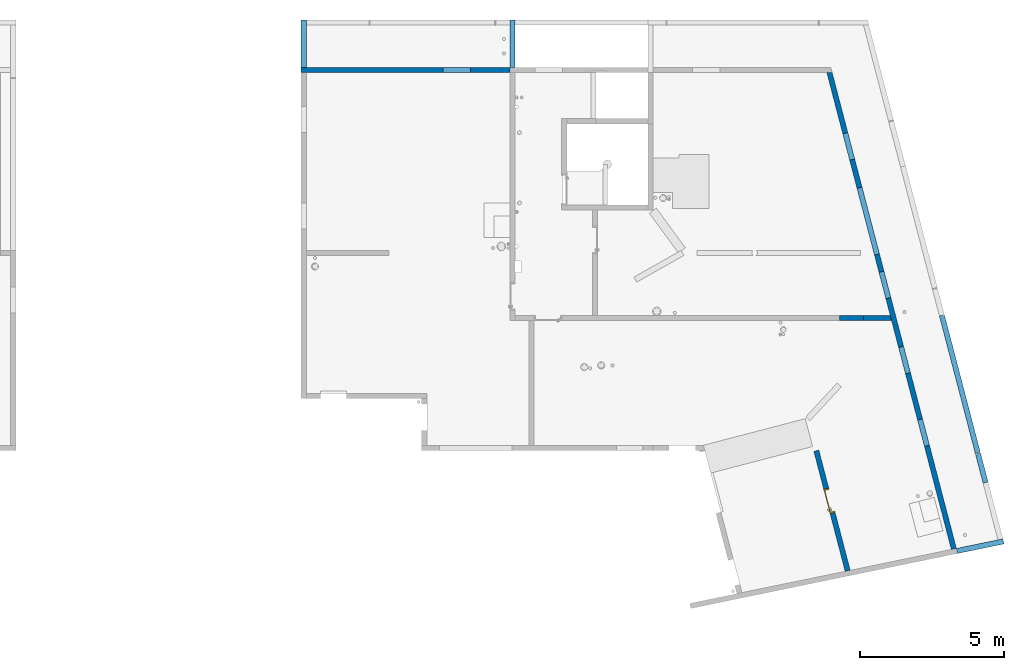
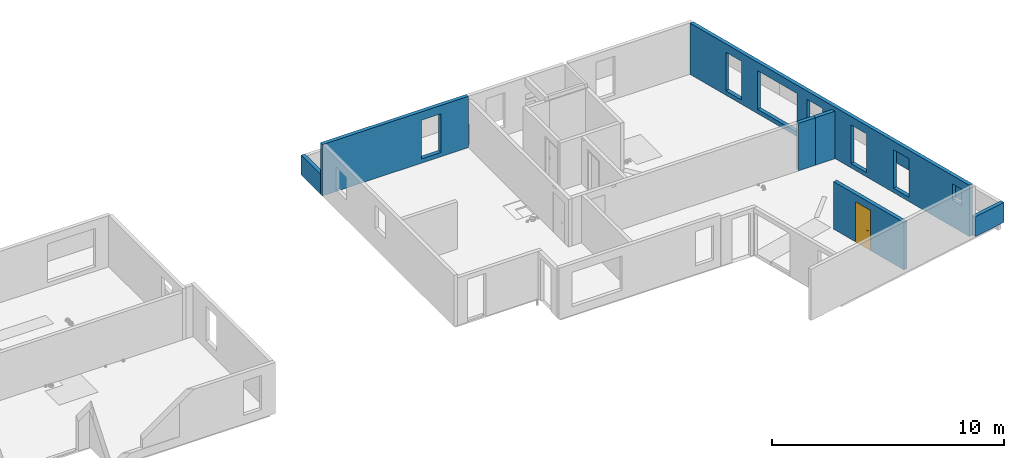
# One storey, part 16 of 28: 9 walls, 1 door, 12 openings.
"""IFC2X3 building model written with IfcOpenShell, lengths in centimetres."""

from ifc_helpers import new_model, entity, si_unit, converted_unit, derived_unit, direction, frame, frame_2d, origin, place, context, subcontext, project, spatial, polyline, rectangle, outline, extrude, clip, bounded_halfspace, faceted_brep, source, transform, mapped, material, material_list, layer, layer_set, layer_usage, type_object, type_shapes, element, fill, save


model = new_model("IFC2X3")

# Units and contexts
model_context = context("Model", 3, precision=0.001, world=origin(), true_north=direction((6.12303176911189e-17, 1.0)))
body_context = subcontext(model_context, "Body", "Model", "MODEL_VIEW")
ifc_project = project(units=[si_unit("LENGTHUNIT", "METRE", prefix="CENTI"), si_unit("AREAUNIT", "SQUARE_METRE"), si_unit("VOLUMEUNIT", "CUBIC_METRE"), converted_unit("PLANEANGLEUNIT", "DEGREE", entity("IfcRatioMeasure", 0.0174532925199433), si_unit("PLANEANGLEUNIT", "RADIAN"), dimensions=[0, 0, 0, 0, 0, 0, 0]), si_unit("MASSUNIT", "GRAM", prefix="KILO"), derived_unit("MASSDENSITYUNIT", [(si_unit("MASSUNIT", "GRAM", prefix="KILO"), 1), (si_unit("LENGTHUNIT", "METRE"), -3)]), si_unit("TIMEUNIT", "SECOND"), si_unit("FREQUENCYUNIT", "HERTZ"), si_unit("THERMODYNAMICTEMPERATUREUNIT", "DEGREE_CELSIUS"), derived_unit("THERMALTRANSMITTANCEUNIT", [(si_unit("MASSUNIT", "GRAM", prefix="KILO"), 1), (si_unit("THERMODYNAMICTEMPERATUREUNIT", "KELVIN"), -1), (si_unit("TIMEUNIT", "SECOND"), -3)]), derived_unit("VOLUMETRICFLOWRATEUNIT", [(si_unit("LENGTHUNIT", "METRE"), 3), (si_unit("TIMEUNIT", "SECOND"), -1)]), si_unit("ELECTRICCURRENTUNIT", "AMPERE"), si_unit("ELECTRICVOLTAGEUNIT", "VOLT"), si_unit("POWERUNIT", "WATT"), si_unit("FORCEUNIT", "NEWTON"), si_unit("ILLUMINANCEUNIT", "LUX"), si_unit("LUMINOUSFLUXUNIT", "LUMEN"), si_unit("LUMINOUSINTENSITYUNIT", "CANDELA"), derived_unit("USERDEFINED", [(si_unit("MASSUNIT", "GRAM", prefix="KILO"), -1), (si_unit("LENGTHUNIT", "METRE"), -2), (si_unit("TIMEUNIT", "SECOND"), 3), (si_unit("LUMINOUSFLUXUNIT", "LUMEN"), 1)]), derived_unit("LINEARVELOCITYUNIT", [(si_unit("LENGTHUNIT", "METRE"), 1), (si_unit("TIMEUNIT", "SECOND"), -1)]), si_unit("PRESSUREUNIT", "PASCAL"), derived_unit("USERDEFINED", [(si_unit("LENGTHUNIT", "METRE"), -2), (si_unit("MASSUNIT", "GRAM", prefix="KILO"), 1), (si_unit("TIMEUNIT", "SECOND"), -2)])], contexts=[model_context])

# Site, building, storey
site_placement = place(None, origin())
site = spatial("IfcSite", under=ifc_project, at=site_placement, Name="Default", CompositionType="ELEMENT")
building_placement = place(site_placement, origin())
building = spatial("IfcBuilding", under=site, at=building_placement, Name="CAGE 03", CompositionType="ELEMENT")
storey_placement = place(building_placement, frame((0.0, 0.0, 1420.0)))
storey = spatial("IfcBuildingStorey", under=building, at=storey_placement, Name="R+5", CompositionType="ELEMENT", Elevation=1420.0)

# Walls
ifc_material_1 = material(Name="Béton, C25/30")
ifc_layer_1 = layer(ifc_material_1, 18.0)
ifc_layer_set_1 = layer_set([ifc_layer_1], Name="Mur de base:Voile BA 18")
ifc_layer_usage_1 = layer_usage(ifc_layer_set_1, "AXIS2", "POSITIVE", -9.0)
wall_type_1 = type_object("IfcWallType", Name="Mur de base:Voile BA 18", PredefinedType="STANDARD", material=ifc_layer_set_1)
wall_1_placement = place(storey_placement, frame((9293.36582014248, 5293.66066607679, 0.0), z_axis=(0.0, 0.0, 1.0), x_axis=(0.0, -1.0, 0.0)))
element("IfcWallStandardCase", 1, at=wall_1_placement, inside=storey, type_object=wall_type_1, material=ifc_layer_usage_1, Name="Mur de base:Voile BA 18", ObjectType="Mur de base:Voile BA 18", context=body_context, shape_type="SweptSolid", body=[
    extrude(rectangle(XDim=164.999999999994, YDim=17.9999999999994, at=frame_2d((82.4999999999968, 4.68070027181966e-13), x_axis=(-1.0, 0.0))), origin(), (0.0, 0.0, 1.0), 105.0),
])
ifc_layer_usage_2 = layer_usage(ifc_layer_set_1, "AXIS2", "POSITIVE", -9.0)
wall_2_placement = place(storey_placement, frame((11664.649381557, 3684.91603351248, 0.0), z_axis=(0.0, 0.0, 1.0), x_axis=(-0.25267968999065, 0.967549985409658, 0.0)))
element("IfcWallStandardCase", 2, at=wall_2_placement, inside=storey, type_object=wall_type_1, material=ifc_layer_usage_2, Name="Mur de base:Voile BA 18", ObjectType="Mur de base:Voile BA 18", context=body_context, shape_type="Clipping", body=[
    clip(extrude(rectangle(XDim=601.255378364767, YDim=17.9999999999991, at=frame_2d((300.627689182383, 8.61533067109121e-14), x_axis=(-1.0, 0.0))), origin(), (0.0, 0.0, 1.0), 105.0), bounded_halfspace(frame((105.499999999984, 9.0, 40.0), z_axis=(0.0, 0.0, 1.0), x_axis=(0.0, -1.0, 0.0)), False, frame((105.499999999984, 9.0, 40.0), z_axis=(0.0, 0.0, 1.0), x_axis=(0.0, -1.0, 0.0)), polyline([(0.0, 0.0), (18.0, 0.0), (18.0, 2.0), (0.0, 2.0), (0.0, 0.0)]))),
])
ifc_layer_usage_3 = layer_usage(ifc_layer_set_1, "AXIS2", "POSITIVE", -9.0)
wall_3_placement = place(storey_placement, frame((11337.5894634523, 4257.66066607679, 0.0), z_axis=(0.0, 0.0, 1.0), x_axis=(-1.0, 0.0, 0.0)))
element("IfcWallStandardCase", 3, at=wall_3_placement, inside=storey, type_object=wall_type_1, material=ifc_layer_usage_3, Name="Mur de base:Voile BA 18", ObjectType="Mur de base:Voile BA 18", context=body_context, shape_type="SweptSolid", body=[
    extrude(outline(polyline([(98.2236433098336, -9.0), (98.2236433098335, 9.0), (0.0, 9.0), (4.70077462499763, -9.0), (98.2236433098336, -9.0)])), origin(), (0.0, 0.0, 1.0), 250.0),
])

# Wall, opening, door
ifc_layer_usage_4 = layer_usage(ifc_layer_set_1, "AXIS2", "POSITIVE", -9.0)
wall_4_placement = place(storey_placement, frame((11076.0350638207, 3795.78277764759, 0.0), z_axis=(0.0, 0.0, 1.0), x_axis=(0.252679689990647, -0.967549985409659, 0.0)))
wall_4 = element("IfcWallStandardCase", 4, at=wall_4_placement, inside=storey, type_object=wall_type_1, material=ifc_layer_usage_4, Name="Mur de base:Voile BA 18", ObjectType="Mur de base:Voile BA 18", context=body_context, shape_type="SweptSolid", body=[
    extrude(outline(polyline([(0.0, -9.0), (431.360399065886, -9.0), (432.300690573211, 9.0), (0.0, 9.0), (0.0, -9.0)])), origin(), (0.0, 0.0, 1.0), 250.0),
])
opening_1_placement = place(wall_4_placement, frame((223.70998167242, 9.0, 0.0)))
opening_1 = element("IfcOpeningElement", 5, at=opening_1_placement, cuts=wall_4, Name="Int. Simple:HB83:1", ObjectType="Opening", context=body_context, shape_type="SweptSolid", body=[
    extrude(rectangle(XDim=210.000000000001, YDim=86.9999999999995, at=frame_2d((105.000000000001, 43.4999999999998), x_axis=(1.0, 0.0))), frame((0.0, 0.0, 0.0), z_axis=(0.0, -1.0, 0.0), x_axis=(0.0, 0.0, 1.0)), (0.0, 0.0, 1.0), 18.0),
])
ifc_material_2 = material(Name="Finition Peinture - Blanc satiné")
ifc_material_3 = material(Name="Bois - Panneau de porte")
ifc_material_4 = material(Name="Bois - Cadre de porte")
ifc_material_list_1 = material_list([ifc_material_2, ifc_material_3, ifc_material_4])
ifc_material_list_2 = material_list([ifc_material_2, ifc_material_3, ifc_material_4])
door_style = type_object("IfcDoorStyle", Name="HB83", ConstructionType="NOTDEFINED", OperationType="SINGLE_SWING_RIGHT", ParameterTakesPrecedence=False, Sizeable=False, material=ifc_material_list_2)
shared_shape = source(origin(), body_context, "Body", "Brep", [
    faceted_brep([(86.5000000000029, -0.500000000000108, 87.0), (86.5000000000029, -0.500000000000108, 108.0), (85.535276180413, -0.500000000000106, 108.399601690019), (84.5000000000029, -0.500000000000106, 108.535898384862), (83.4647238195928, -0.500000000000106, 108.399601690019), (82.500000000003, -0.500000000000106, 108.0), (82.5000000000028, -0.500000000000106, 87.0), (83.4647238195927, -0.500000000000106, 86.6003983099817), (84.5000000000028, -0.500000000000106, 86.464101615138), (85.5352761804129, -0.500000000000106, 86.6003983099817), (86.5000000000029, 0.0, 108.0), (86.5000000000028, 0.0, 87.0), (85.5352761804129, 0.0, 86.6003983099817), (84.5000000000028, 0.0, 86.464101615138), (83.4647238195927, 0.0, 86.6003983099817), (82.5000000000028, 0.0, 87.0), (82.500000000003, 0.0, 108.0), (83.4647238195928, 0.0, 108.399601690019), (84.5000000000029, 0.0, 108.535898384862), (85.535276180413, 0.0, 108.399601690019)], [[[0, 1, 2, 3, 4, 5, 6, 7, 8, 9]], [[10, 11, 12, 13, 14, 15, 16, 17, 18, 19]], [[9, 12, 11, 0]], [[8, 13, 12, 9]], [[7, 14, 13, 8]], [[7, 6, 15, 14]], [[15, 6, 5, 16]], [[4, 17, 16, 5]], [[3, 18, 17, 4]], [[2, 19, 18, 3]], [[2, 1, 10, 19]], [[11, 10, 1, 0]]]),
    faceted_brep([(86.5000000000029, 3.0, 87.0), (86.5000000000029, 3.0, 108.0), (85.535276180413, 3.0, 108.399601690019), (84.500000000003, 3.0, 108.535898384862), (83.4647238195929, 3.0, 108.399601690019), (82.500000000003, 3.0, 108.0), (82.5000000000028, 3.0, 87.0), (83.4647238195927, 3.0, 86.6003983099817), (84.5000000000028, 3.0, 86.464101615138), (85.5352761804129, 3.0, 86.6003983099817), (84.500000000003, 3.49999999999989, 108.535898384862), (85.535276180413, 3.49999999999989, 108.399601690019), (86.5000000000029, 3.49999999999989, 108.0), (86.5000000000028, 3.49999999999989, 87.0), (85.5352761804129, 3.49999999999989, 86.6003983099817), (84.5000000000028, 3.49999999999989, 86.464101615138), (83.4647238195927, 3.49999999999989, 86.6003983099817), (82.5000000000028, 3.49999999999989, 87.0), (82.500000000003, 3.49999999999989, 108.0), (83.4647238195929, 3.49999999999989, 108.399601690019)], [[[0, 1, 2, 3, 4, 5, 6, 7, 8, 9]], [[10, 11, 12, 13, 14, 15, 16, 17, 18, 19]], [[4, 19, 18, 5]], [[3, 10, 19, 4]], [[2, 11, 10, 3]], [[2, 1, 12, 11]], [[13, 12, 1, 0]], [[9, 14, 13, 0]], [[8, 15, 14, 9]], [[7, 16, 15, 8]], [[7, 6, 17, 16]], [[17, 6, 5, 18]]]),
    faceted_brep([(84.297470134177, -0.500000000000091, 100.778044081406), (84.7025298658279, -0.500000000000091, 100.778044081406), (85.1000000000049, -0.500000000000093, 100.699999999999), (85.1000000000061, -0.500000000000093, 99.299999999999), (84.702529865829, -0.500000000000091, 99.2219559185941), (84.297470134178, -0.500000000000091, 99.2219559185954), (83.9000000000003, -0.500000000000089, 99.3000000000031), (83.9000000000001, -0.500000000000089, 100.7), (84.7025298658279, -3.1004575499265, 100.778044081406), (85.1000000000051, -3.26509507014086, 100.7), (84.297470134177, -2.93267631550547, 100.778044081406), (82.9298602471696, -4.30028620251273, 100.778044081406), (83.0976414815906, -4.70534593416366, 100.778044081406), (83.9000000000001, -2.76803879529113, 100.7), (83.9000000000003, -2.76803879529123, 99.3000000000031), (84.297470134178, -2.93267631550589, 99.2219559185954), (84.702529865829, -3.10045754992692, 99.2219559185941), (83.097641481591, -4.70534593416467, 99.2219559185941), (82.92986024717, -4.30028620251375, 99.2219559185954), (85.1000000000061, -3.26509507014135, 99.299999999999), (83.2622790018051, -5.10281606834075, 100.7), (82.7652227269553, -3.90281606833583, 100.7), (82.7652227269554, -3.90281606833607, 99.3000000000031), (83.2622790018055, -5.10281606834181, 99.299999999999), (74.4981359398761, -5.1028160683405, 100.7), (74.4981359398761, -4.7053459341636, 100.778044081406), (74.4981359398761, -4.30028620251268, 100.778044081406), (74.4981359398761, -3.90281606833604, 100.699999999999), (74.4981359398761, -3.90281606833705, 99.3000000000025), (74.4981359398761, -4.30028620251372, 99.2219559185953), (74.4981359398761, -4.70534593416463, 99.2219559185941), (74.4981359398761, -5.10281606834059, 99.2999999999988), (78.7139980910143, -4.50281606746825, 100.78786867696), (79.2692302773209, -5.10281606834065, 100.7), (78.6316793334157, -3.90281606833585, 100.7), (78.6316793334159, -3.90281606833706, 99.3000000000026), (78.7139981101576, -4.50281607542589, 99.2121313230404), (79.2692299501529, -5.10281606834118, 99.2999999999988)], [[[0, 1, 2, 3, 4, 5, 6, 7]], [[2, 1, 8, 9]], [[1, 0, 10, 11, 12, 8]], [[0, 7, 13, 10]], [[14, 13, 7, 6]], [[5, 15, 14, 6]], [[5, 4, 16, 17, 18, 15]], [[3, 19, 16, 4]], [[9, 19, 3, 2]], [[9, 8, 12, 20]], [[10, 13, 21, 11]], [[22, 21, 13, 14]], [[14, 15, 18, 22]], [[16, 19, 23, 17]], [[20, 23, 19, 9]], [[24, 25, 26, 27, 28, 29, 30, 31]], [[32, 25, 33]], [[33, 25, 24]], [[33, 20, 12]], [[11, 34, 32]], [[34, 11, 21]], [[27, 26, 34]], [[32, 26, 25]], [[32, 34, 26]], [[32, 33, 12]], [[11, 32, 12]], [[21, 22, 35, 28, 27, 34]], [[36, 29, 35]], [[30, 36, 37]], [[18, 35, 22]], [[29, 28, 35]], [[30, 37, 31]], [[37, 17, 23]], [[36, 17, 37]], [[36, 18, 17]], [[36, 35, 18]], [[29, 36, 30]], [[23, 20, 33, 24, 31, 37]]]),
    faceted_brep([(84.2974701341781, 3.49999999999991, 99.2219559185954), (84.702529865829, 3.49999999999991, 99.2219559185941), (85.1000000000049, 3.4999999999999, 99.2999999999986), (85.1000000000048, 3.4999999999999, 100.7), (84.7025298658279, 3.49999999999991, 100.778044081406), (84.297470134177, 3.49999999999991, 100.778044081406), (83.9000000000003, 3.49999999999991, 100.7), (83.9000000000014, 3.49999999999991, 99.3000000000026), (83.9000000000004, 5.74852045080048, 100.7), (83.9000000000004, 5.74852045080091, 99.3000000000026), (84.2974701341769, 5.91315797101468, 100.778044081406), (84.7025298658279, 6.08093920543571, 100.778044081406), (83.0838906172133, 7.69957845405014, 100.778044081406), (82.9161093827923, 7.29451872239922, 100.778044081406), (85.1000000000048, 6.24557672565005, 100.7), (85.1000000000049, 6.2455767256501, 99.2999999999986), (84.702529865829, 6.08093920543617, 99.2219559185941), (84.2974701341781, 5.91315797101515, 99.2219559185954), (82.9161093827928, 7.29451872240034, 99.2219559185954), (83.0838906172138, 7.69957845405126, 99.2219559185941), (82.7514718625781, 6.89704858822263, 100.7), (82.7514718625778, 6.89704858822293, 99.3000000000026), (83.2485281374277, 8.09704858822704, 100.7), (83.2485281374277, 8.09704858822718, 99.2999999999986), (74.4954216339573, 7.29451872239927, 100.778044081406), (74.4954216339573, 7.6995784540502, 100.778044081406), (74.4954216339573, 8.0970485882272, 100.7), (74.4954216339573, 8.09704858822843, 99.299999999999), (74.4954216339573, 7.6995784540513, 99.2219559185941), (74.4954216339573, 7.29451872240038, 99.2219559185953), (74.4954216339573, 6.89704858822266, 99.3000000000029), (74.4954216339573, 6.89704858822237, 100.7), (78.6234467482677, 6.89704858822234, 100.7), (78.6234479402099, 6.89704858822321, 99.3000000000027), (78.7057655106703, 7.4970485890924, 100.78786867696), (79.255479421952, 8.09704858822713, 100.7), (79.2554794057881, 8.09704858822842, 99.299999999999), (78.7057654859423, 7.49704858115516, 99.2121313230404)], [[[0, 1, 2, 3, 4, 5, 6, 7]], [[8, 9, 7, 6]], [[5, 10, 8, 6]], [[5, 4, 11, 12, 13, 10]], [[3, 14, 11, 4]], [[14, 3, 2, 15]], [[2, 1, 16, 15]], [[1, 0, 17, 18, 19, 16]], [[0, 7, 9, 17]], [[20, 21, 9, 8]], [[8, 10, 13, 20]], [[14, 22, 12, 11]], [[23, 22, 14, 15]], [[15, 16, 19, 23]], [[17, 9, 21, 18]], [[24, 25, 26, 27, 28, 29, 30, 31]], [[20, 32, 31, 30, 33, 21]], [[34, 24, 32]], [[25, 34, 35]], [[13, 32, 20]], [[24, 31, 32]], [[25, 35, 26]], [[35, 12, 22]], [[34, 12, 35]], [[34, 13, 12]], [[34, 32, 13]], [[24, 34, 25]], [[22, 23, 36, 27, 26, 35]], [[37, 28, 36]], [[36, 28, 27]], [[36, 23, 19]], [[18, 33, 37]], [[33, 18, 21]], [[30, 29, 33]], [[37, 29, 28]], [[37, 33, 29]], [[37, 36, 19]], [[18, 37, 19]]]),
    faceted_brep([(90.5000000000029, 3.0, 206.5), (90.5000000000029, 3.0, 0.0), (10.5000000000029, 3.0, 0.0), (10.5000000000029, 3.0, 206.5), (90.5000000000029, 0.0, 206.5), (10.5000000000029, 0.0, 206.5), (10.5000000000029, 0.0, 0.0), (90.5000000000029, 0.0, 0.0)], [[[0, 1, 2, 3]], [[4, 5, 6, 7]], [[3, 5, 4, 0]], [[2, 6, 5, 3]], [[1, 7, 6, 2]], [[0, 4, 7, 1]]]),
    faceted_brep([(94.0, 0.0, 0.0), (90.5000000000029, 0.0, 0.0), (90.5000000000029, 3.0, 0.0), (89.0, 3.0, 0.0), (89.0, 18.0, 0.0), (94.0, 18.0, 0.0), (94.0, 18.0, 210.0), (94.0, 0.0, 210.0), (89.0, 18.0, 205.0), (12.0, 18.0, 205.0), (12.0, 18.0, 0.0), (7.0, 18.0, 0.0), (7.0, 18.0, 210.0), (89.0, 3.0, 205.0), (90.5000000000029, 3.0, 206.5), (10.5000000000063, 3.0, 206.5), (10.5000000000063, 3.0, 0.0), (12.0, 3.0, 0.0), (12.0, 3.0, 205.0), (90.5000000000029, 0.0, 206.5), (7.0, 0.0, 210.0), (7.0, 0.0, 0.0), (10.5000000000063, 0.0, 0.0), (10.5000000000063, 0.0, 206.5)], [[[0, 1, 2, 3, 4, 5]], [[5, 6, 7, 0]], [[4, 8, 9, 10, 11, 12, 6, 5]], [[3, 13, 8, 4]], [[2, 14, 15, 16, 17, 18, 13, 3]], [[1, 19, 14, 2]], [[0, 7, 20, 21, 22, 23, 19, 1]], [[12, 11, 21, 20]], [[21, 11, 10, 17, 16, 22]], [[18, 17, 10, 9]], [[23, 22, 16, 15]], [[6, 12, 20, 7]], [[13, 18, 9, 8]], [[19, 23, 15, 14]]]),
    faceted_brep([(92.5000000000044, 18.0, 0.0), (92.5000000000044, 18.5000000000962, 0.0), (95.5000000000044, 18.5000000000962, 0.0), (95.5000000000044, 18.0, 0.0), (95.5000000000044, 18.0, 211.500000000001), (5.50000000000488, 18.0, 211.500000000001), (5.50000000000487, 18.0, 0.0), (8.50000000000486, 18.0, 0.0), (8.50000000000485, 18.0, 208.500000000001), (92.5000000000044, 18.0, 208.500000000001), (95.5000000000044, 18.5000000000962, 211.500000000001), (92.5000000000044, 18.5000000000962, 208.500000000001), (8.50000000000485, 18.5000000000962, 208.500000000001), (8.50000000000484, 18.5000000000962, 0.0), (5.50000000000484, 18.5000000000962, 0.0), (5.50000000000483, 18.5000000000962, 211.500000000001)], [[[0, 1, 2, 3]], [[3, 4, 5, 6, 7, 8, 9, 0]], [[2, 10, 4, 3]], [[1, 11, 12, 13, 14, 15, 10, 2]], [[0, 9, 11, 1]], [[7, 6, 14, 13]], [[8, 7, 13, 12]], [[15, 14, 6, 5]], [[10, 15, 5, 4]], [[9, 8, 12, 11]]]),
    faceted_brep([(95.5000000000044, -0.5, 0.0), (95.5000000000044, -0.5, 211.500000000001), (5.50000000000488, -0.5, 211.500000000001), (5.50000000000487, -0.5, 0.0), (8.50000000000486, -0.5, 0.0), (8.50000000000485, -0.5, 208.500000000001), (92.5000000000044, -0.5, 208.500000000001), (92.5000000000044, -0.5, 0.0), (95.5000000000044, 0.0, 0.0), (95.5000000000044, 0.0, 211.500000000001), (92.5000000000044, 0.0, 0.0), (92.5000000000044, 0.0, 208.500000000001), (8.50000000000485, 0.0, 208.500000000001), (8.50000000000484, 0.0, 0.0), (5.50000000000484, 0.0, 0.0), (5.50000000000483, 0.0, 211.500000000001)], [[[0, 1, 2, 3, 4, 5, 6, 7]], [[8, 9, 1, 0]], [[10, 11, 12, 13, 14, 15, 9, 8]], [[7, 6, 11, 10]], [[5, 4, 13, 12]], [[15, 14, 3, 2]], [[9, 15, 2, 1]], [[6, 5, 12, 11]], [[4, 3, 14, 13]], [[7, 10, 8, 0]]]),
])
type_shapes(door_style, [shared_shape])
door_placement = place(opening_1_placement, frame((-94.0, -18.0, 0.0)))
door = element("IfcDoor", 6, at=door_placement, inside=storey, type_object=door_style, material=ifc_material_list_1, Name="Int. Simple:HB83", ObjectType="HB83", OverallHeight=210.000000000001, OverallWidth=86.9999999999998, context=body_context, shape_type="MappedRepresentation", body=[
    mapped(shared_shape, transform((0.0, 0.0, 0.0), scale=1.0)),
])
fill(opening_1, door)

# Walls
ifc_layer_usage_5 = layer_usage(ifc_layer_set_1, "AXIS2", "POSITIVE", -9.0)
wall_5_placement = place(storey_placement, frame((11239.3658201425, 4257.66066607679, 0.0), z_axis=(0.0, 0.0, 1.0), x_axis=(-1.0, 0.0, 0.0)))
element("IfcWallStandardCase", 7, at=wall_5_placement, inside=storey, type_object=wall_type_1, material=ifc_layer_usage_5, Name="Mur de base:Voile BA 18", ObjectType="Mur de base:Voile BA 18", context=body_context, shape_type="SweptSolid", body=[
    extrude(rectangle(XDim=83.5000000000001, YDim=17.9999999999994, at=frame_2d((41.75, 1.31450406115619e-13), x_axis=(-1.0, 0.0))), origin(), (0.0, 0.0, 1.0), 250.0),
])
ifc_layer_usage_6 = layer_usage(ifc_layer_set_1, "AXIS2", "POSITIVE", -9.0)
wall_6_placement = place(storey_placement, frame((10019.3658201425, 5128.66066607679, 0.0), z_axis=(0.0, 0.0, 1.0), x_axis=(0.0, 1.0, 0.0)))
element("IfcWallStandardCase", 8, at=wall_6_placement, inside=storey, type_object=wall_type_1, material=ifc_layer_usage_6, Name="Mur de base:Voile BA 18", ObjectType="Mur de base:Voile BA 18", context=body_context, shape_type="SweptSolid", body=[
    extrude(rectangle(XDim=164.999999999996, YDim=17.9999999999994, at=frame_2d((82.4999999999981, 1.74082970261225e-13), x_axis=(-1.0, 0.0))), origin(), (0.0, 0.0, 1.0), 105.0),
])

# Wall, openings
ifc_layer_usage_7 = layer_usage(ifc_layer_set_1, "AXIS2", "POSITIVE", -9.0)
wall_7_placement = place(storey_placement, frame((10019.3658201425, 5119.66066607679, 0.0), z_axis=(0.0, 0.0, 1.0), x_axis=(-1.0, 0.0, 0.0)))
wall_7 = element("IfcWallStandardCase", 9, at=wall_7_placement, inside=storey, type_object=wall_type_1, material=ifc_layer_usage_7, Name="Mur de base:Voile BA 18", ObjectType="Mur de base:Voile BA 18", context=body_context, shape_type="SweptSolid", body=[
    extrude(rectangle(XDim=725.999999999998, YDim=18.0000000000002, at=frame_2d((371.999999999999, -4.38760139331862e-13), x_axis=(-1.0, 0.0))), origin(), (0.0, 0.0, 1.0), 270.0),
])
opening_2_placement = place(wall_7_placement, origin())
element("IfcOpeningElement", 10, at=opening_2_placement, cuts=wall_7, Name="Mur de base:Voile BA 18", ObjectType="Opening", context=body_context, shape_type="SweptSolid", body=[
    extrude(rectangle(XDim=227.0, YDim=17.9999999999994, at=frame_2d((0.0, -2.20268248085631e-13), x_axis=(0.0, 1.0))), frame((-282.0, 9.0, 113.5), z_axis=(0.0, 1.0, 0.0), x_axis=(-1.0, 0.0, 0.0)), (0.0, 0.0, 1.0), 160.0),
])
opening_3_placement = place(wall_7_placement, origin())
element("IfcOpeningElement", 11, at=opening_3_placement, cuts=wall_7, Name="Mur de base:Voile BA 18", ObjectType="Recess", context=body_context, shape_type="SweptSolid", body=[
    extrude(rectangle(XDim=30.0000000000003, YDim=50.0000000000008, at=frame_2d((8.66862137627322e-13, -1.08357767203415e-13), x_axis=(0.0, 1.0))), frame((-301.0, 4.0, 25.0), z_axis=(0.0, 1.0, 0.0), x_axis=(1.0, 0.0, 0.0)), (0.0, 0.0, 1.0), 4.99999999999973),
])
opening_4_placement = place(wall_7_placement, origin())
element("IfcOpeningElement", 12, at=opening_4_placement, cuts=wall_7, Name="Mur de base:Voile BA 18", ObjectType="Recess", context=body_context, shape_type="SweptSolid", body=[
    extrude(rectangle(XDim=30.0000000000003, YDim=50.0000000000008, at=frame_2d((8.66862137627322e-13, 1.08357767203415e-13), x_axis=(0.0, 1.0))), frame((-301.0, 4.0, 120.0), z_axis=(0.0, 1.0, 0.0), x_axis=(1.0, 0.0, 0.0)), (0.0, 0.0, 1.0), 4.99999999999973),
])
opening_5_placement = place(wall_7_placement, origin())
element("IfcOpeningElement", 13, at=opening_5_placement, cuts=wall_7, Name="Mur de base:Voile BA 18", ObjectType="Recess", context=body_context, shape_type="SweptSolid", body=[
    extrude(rectangle(XDim=30.0000000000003, YDim=50.0000000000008, at=frame_2d((8.66862137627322e-13, 1.08357767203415e-13), x_axis=(0.0, 1.0))), frame((-301.0, 4.0, 165.0), z_axis=(0.0, 1.0, 0.0), x_axis=(1.0, 0.0, 0.0)), (0.0, 0.0, 1.0), 4.99999999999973),
])
opening_6_placement = place(wall_7_placement, frame((10019.3658201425, 5119.66066607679, 0.0), z_axis=(0.0, 0.0, 1.0), x_axis=(-1.0, 0.0, 0.0)))
element("IfcOpeningElement", 14, at=opening_6_placement, cuts=wall_7, Name="Mur de base:Voile BA 18", ObjectType="Opening", context=body_context, shape_type="SweptSolid", body=[
    extrude(rectangle(XDim=203.0, YDim=95.0000000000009, at=frame_2d((8.66862137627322e-13, -1.06581410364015e-13), x_axis=(0.0, 1.0))), frame((9825.86582014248, 5263.06066607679, 124.5), z_axis=(0.0, -1.0, 0.0), x_axis=(1.0, 0.0, 0.0)), (0.0, 0.0, 1.0), 304.8),
])

ifc_layer_usage_8 = layer_usage(ifc_layer_set_1, "AXIS2", "NEGATIVE", 9.0)
wall_8_placement = place(storey_placement, frame((11554.520882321, 3453.61460927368, 0.0), z_axis=(0.0, 0.0, 1.0), x_axis=(-0.25267968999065, 0.967549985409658, 0.0)))
wall_8 = element("IfcWallStandardCase", 15, at=wall_8_placement, inside=storey, type_object=wall_type_1, material=ifc_layer_usage_8, Name="Mur de base:Voile BA 18", ObjectType="Mur de base:Voile BA 18", context=body_context, shape_type="SweptSolid", body=[
    extrude(outline(polyline([(1710.27023362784, -9.0), (1714.97100825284, 9.0), (842.664654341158, 9.0), (824.060964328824, 9.0), (0.940291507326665, 9.0), (0.0, -9.0), (1710.27023362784, -9.0)])), origin(), (0.0, 0.0, 1.0), 270.0),
])
opening_7_placement = place(wall_8_placement, frame((-421.952010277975, 12052.2347799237, 0.0), z_axis=(0.0, 0.0, 1.0), x_axis=(-0.25267968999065, -0.967549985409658, 0.0)))
element("IfcOpeningElement", 16, at=opening_7_placement, cuts=wall_8, Name="Mur de base:Voile BA 18", ObjectType="Opening", context=body_context, shape_type="SweptSolid", body=[
    extrude(rectangle(XDim=203.0, YDim=95.0, at=frame_2d((1.06581410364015e-13, 0.0), x_axis=(1.0, 0.0))), frame((11344.9375695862, 4894.8951933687, 124.5), z_axis=(-0.96754998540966, -0.252679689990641, 0.0), x_axis=(0.0, 0.0, 1.0)), (0.0, 0.0, 1.0), 304.8),
])
opening_8_placement = place(wall_8_placement, frame((-421.952010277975, 12052.2347799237, 0.0), z_axis=(0.0, 0.0, 1.0), x_axis=(-0.25267968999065, -0.967549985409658, 0.0)))
element("IfcOpeningElement", 17, at=opening_8_placement, cuts=wall_8, Name="Mur de base:Voile BA 18", ObjectType="Opening", context=body_context, shape_type="SweptSolid", body=[
    extrude(rectangle(XDim=203.0, YDim=240.0, at=frame_2d((1.06581410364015e-13, -4.19220214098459e-13), x_axis=(1.0, 0.0))), frame((11412.7820663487, 4635.10802228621, 124.5), z_axis=(-0.967549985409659, -0.252679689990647, 0.0), x_axis=(0.0, 0.0, 1.0)), (0.0, 0.0, 1.0), 304.8),
])
opening_9_placement = place(wall_8_placement, frame((-421.952010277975, 12052.2347799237, 0.0), z_axis=(0.0, 0.0, 1.0), x_axis=(-0.25267968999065, -0.967549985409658, 0.0)))
element("IfcOpeningElement", 18, at=opening_9_placement, cuts=wall_8, Name="Mur de base:Voile BA 18", ObjectType="Opening", context=body_context, shape_type="SweptSolid", body=[
    extrude(rectangle(XDim=203.0, YDim=95.0, at=frame_2d((1.06581410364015e-13, 0.0), x_axis=(1.0, 0.0))), frame((11470.7720552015, 4413.05530063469, 124.5), z_axis=(-0.96754998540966, -0.252679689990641, 0.0), x_axis=(0.0, 0.0, 1.0)), (0.0, 0.0, 1.0), 304.8),
])
opening_10_placement = place(wall_8_placement, frame((-421.952010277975, 12052.2347799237, 0.0), z_axis=(0.0, 0.0, 1.0), x_axis=(-0.25267968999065, -0.967549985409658, 0.0)))
element("IfcOpeningElement", 19, at=opening_10_placement, cuts=wall_8, Name="Mur de base:Voile BA 18", ObjectType="Opening", context=body_context, shape_type="SweptSolid", body=[
    extrude(rectangle(XDim=203.0, YDim=95.0000000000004, at=frame_2d((1.06581410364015e-13, 2.16715534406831e-13), x_axis=(1.0, 0.0))), frame((11538.995571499, 4151.81680457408, 124.5), z_axis=(-0.967549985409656, -0.252679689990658, 0.0), x_axis=(0.0, 0.0, 1.0)), (0.0, 0.0, 1.0), 304.8),
])
opening_11_placement = place(wall_8_placement, frame((-421.952010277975, 12052.2347799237, 0.0), z_axis=(0.0, 0.0, 1.0), x_axis=(-0.25267968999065, -0.967549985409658, 0.0)))
element("IfcOpeningElement", 20, at=opening_11_placement, cuts=wall_8, Name="Mur de base:Voile BA 18", ObjectType="Opening", context=body_context, shape_type="SweptSolid", body=[
    extrude(rectangle(XDim=203.0, YDim=95.0, at=frame_2d((1.06581410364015e-13, 4.2632564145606e-13), x_axis=(1.0, 0.0))), frame((11604.9449705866, 3899.28625838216, 124.5), z_axis=(-0.967549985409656, -0.252679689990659, 0.0), x_axis=(0.0, 0.0, 1.0)), (0.0, 0.0, 1.0), 304.8),
])
opening_12_placement = place(wall_8_placement, frame((-421.952010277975, 12052.2347799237, 0.0), z_axis=(0.0, 0.0, 1.0), x_axis=(-0.25267968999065, -0.967549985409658, 0.0)))
element("IfcOpeningElement", 21, at=opening_12_placement, cuts=wall_8, Name="Mur de base:Voile BA 18", ObjectType="Opening", context=body_context, shape_type="SweptSolid", body=[
    extrude(rectangle(XDim=85.9999999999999, YDim=55.0000000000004, at=frame_2d((0.0, 2.0961010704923e-13), x_axis=(1.0, 0.0))), frame((11691.1087448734, 3569.35171335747, 183.0), z_axis=(-0.967549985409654, -0.252679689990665, 0.0), x_axis=(0.0, 0.0, 1.0)), (0.0, 0.0, 1.0), 304.8),
])

# Wall
ifc_material_5 = material(Name="Béton, panneaux préfa 30/37")
ifc_layer_2 = layer(ifc_material_5, 5.5)
ifc_layer_3 = layer(ifc_material_1, 7.0)
ifc_layer_4 = layer(ifc_material_5, 5.5)
ifc_layer_set_2 = layer_set([ifc_layer_2, ifc_layer_3, ifc_layer_4], Name="Mur de base:premur 18")
ifc_layer_usage_9 = layer_usage(ifc_layer_set_2, "AXIS2", "POSITIVE", -9.0)
wall_type_2 = type_object("IfcWallType", Name="Mur de base:premur 18", PredefinedType="NOTDEFINED")
wall_9_placement = place(storey_placement, frame((11565.0455827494, 3447.07399918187, 0.0), z_axis=(0.0, 0.0, 1.0), x_axis=(0.979414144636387, 0.201861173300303, 0.0)))
element("IfcWallStandardCase", 22, at=wall_9_placement, inside=storey, type_object=wall_type_2, material=ifc_layer_usage_9, Name="Mur de base:premur 18", ObjectType="Mur de base:premur 18", context=body_context, shape_type="SweptSolid", body=[
    extrude(rectangle(XDim=165.224976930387, YDim=18.0, at=frame_2d((82.6124884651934, -1.03028696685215e-13), x_axis=(-1.0, 0.0))), origin(), (0.0, 0.0, 1.0), 105.0),
])

save(model, "model.ifc")
